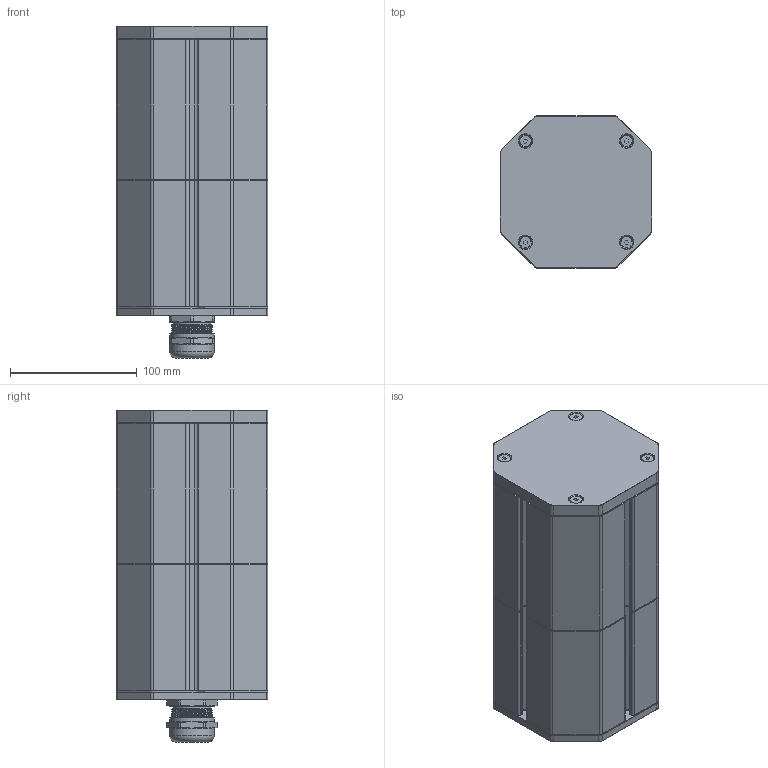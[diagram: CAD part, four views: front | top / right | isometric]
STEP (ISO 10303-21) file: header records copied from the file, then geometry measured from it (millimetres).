
FILE_DESCRIPTION(/* description */ (''),/* implementation_level */ '2;1');
FILE_NAME(/* name */ 'FG-CH87-110-100-F00-B01.stp',/* time_stamp */ '2026-04-14T15:24:34+02:00',/* author */ ('roman'),/* organization */ (''),/* preprocessor_version */ 'ST-DEVELOPER v20',/* originating_system */ 'Autodesk Inventor 2024',/* authorisation */ '');
FILE_SCHEMA (('AUTOMOTIVE_DESIGN { 1 0 10303 214 3 1 1 }'));
Length unit declared in the file: millimetre
Products named in the file (13): FG-CH87-110-100-F00-B01; SUB-CH87-MID-110-100; CH87-BDB-100; CH87-ROD-210; CH87-BDF-110; SUB-CH87-BCK-B01; CH87-CPB-RD; SKINTOP 32x1.5; Matice pruchodky M32x1,5; CH87-SL1; CH87-SL2; CH87-CPF-PMMA; DIN 7991 - M5x20
Assembly tree (23 placements, depth 3):
  FG-CH87-110-100-F00-B01
    SUB-CH87-MID-110-100
      CH87-BDB-100
      CH87-ROD-210  x4
      CH87-BDF-110
      CH87-SL1
    SUB-CH87-BCK-B01
      CH87-CPB-RD
      SKINTOP 32x1.5
      Matice pruchodky M32x1,5
    CH87-SL1
    DIN 7991 - M5x20  x8
    CH87-SL2
    CH87-CPF-PMMA
Bounding box: 120 x 120 x 262.4 mm (x, y, z)
Volume: 916885.8 mm3; surface area: 480132.1 mm2
Topology: 21 solids, 21 shells, 1008 faces, 2722 edges, 1759 vertices
Faces by surface type: plane 452, cylinder 449, cone 95, torus 9, bspline 3
Full cylindrical faces by diameter (mm): 4 x4, 5 x8, 5.5 x4, 6 x8, 6.8 x20, 8.5 x4, 10 x8, 21.4 x1, 25 x1, 30 x2, 30.376 x1, 32 x6, 32.2 x1, 32.5 x1, 35.3 x2, 87 x5
Entity records: 25779 total; most frequent: CARTESIAN_POINT 5425, DIRECTION 4336, ORIENTED_EDGE 4078, EDGE_CURVE 2039, AXIS2_PLACEMENT_3D 1575, VERTEX_POINT 1322, LINE 1186, VECTOR 1186
